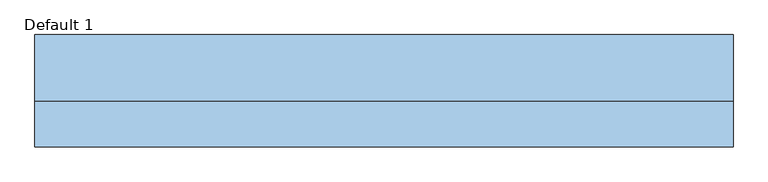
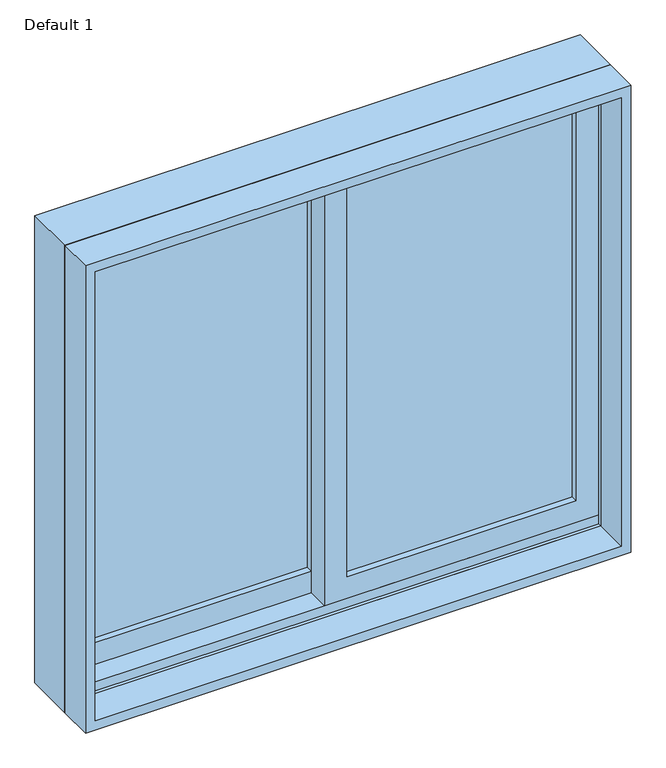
"""IFC4 building model written with IfcOpenShell, lengths in millimetres: window geometry, Planitar-Sliding-Double : Default 1."""

from ifc_helpers import new_model, si_unit, frame, origin, place, context, project, spatial, polyline, outline, extrude, faceted_brep, source, transform, mapped, element, save


def default_1_672f8768(model_context):
    return source(origin(), model_context, "Body", "SolidModel", [
        extrude(outline(polyline([(933.45, -514.35), (933.45, 22.225), (1860.55, 22.225), (1860.55, -514.35), (933.45, -514.35)]), holes=[polyline([(1816.1, -22.225), (996.95, -22.225), (996.95, -469.9), (1816.1, -469.9), (1816.1, -22.225)])]), frame((0.0, 40.64, 0.0), z_axis=(0.0, 1.0, 0.0), x_axis=(0.0, 0.0, 1.0)), (0.0, 0.0, 1.0), 44.45),
        extrude(outline(polyline([(952.5, 514.35), (1860.55, 514.35), (1860.55, -22.225), (952.5, -22.225), (952.5, 514.35)]), holes=[polyline([(996.95, 22.225), (1816.1, 22.225), (1816.1, 469.9), (996.95, 469.9), (996.95, 22.225)])]), frame((0.0, -3.81, 0.0), z_axis=(0.0, 1.0, 0.0), x_axis=(0.0, 0.0, 1.0)), (0.0, 0.0, 1.0), 44.45),
        faceted_brep([(-533.4, -10.16, 914.4), (-533.4, 91.44, 914.4), (533.4, 91.44, 914.4), (533.4, -10.16, 914.4), (-492.4778905, 91.44, 1838.6778905), (-492.4778905, 85.09, 1838.6778905), (-492.4778905, 85.09, 933.45), (-492.4778905, 91.44, 933.45), (492.4778905, 85.09, 1838.6778905), (492.4778905, 85.09, 933.45), (514.35, 85.09, 933.45), (514.35, 85.09, 1860.55), (-514.35, 85.09, 1860.55), (-514.35, 85.09, 933.45), (-514.35, -10.16, 1860.55), (-514.35, -10.16, 933.45), (-514.35, -3.81, 933.45), (-514.35, -3.81, 952.5), (-514.35, 40.64, 952.5), (-514.35, 40.64, 933.45), (533.4, -10.16, 1879.6), (-533.4, -10.16, 1879.6), (514.35, -10.16, 1860.55), (514.35, -10.16, 933.45), (-533.4, 91.44, 1879.6), (533.4, 91.44, 1879.6), (492.4778905, 91.44, 933.45), (492.4778905, 91.44, 1838.6778905), (514.35, 40.64, 933.45), (514.35, 40.64, 952.5), (514.35, -3.81, 952.5), (514.35, -3.81, 933.45)], [[[0, 1, 2, 3]], [[4, 5, 6, 7]], [[5, 8, 9, 10, 11, 12, 13, 6]], [[12, 14, 15, 16, 17, 18, 19, 13]], [[0, 3, 20, 21], [22, 23, 15, 14]], [[24, 1, 0, 21]], [[2, 1, 24, 25], [4, 7, 26, 27]], [[5, 4, 27, 8]], [[12, 11, 22, 14]], [[21, 20, 25, 24]], [[8, 27, 26, 9]], [[22, 11, 10, 28, 29, 30, 31, 23]], [[20, 3, 2, 25]], [[26, 7, 6, 13, 19, 28, 10, 9]], [[28, 19, 18, 29]], [[29, 18, 17, 30]], [[30, 17, 16, 31]], [[15, 23, 31, 16]]]),
        extrude(outline(polyline([(1879.6, -533.4), (914.4, -533.4), (914.4, 533.4), (1879.6, 533.4), (1879.6, -533.4)]), holes=[polyline([(1860.55, 514.35), (933.45, 514.35), (933.45, -514.35), (1860.55, -514.35), (1860.55, 514.35)])]), frame((0.0, -80.01, 0.0), z_axis=(0.0, 1.0, 0.0), x_axis=(0.0, 0.0, 1.0)), (0.0, 0.0, 1.0), 69.85),
        extrude(outline(polyline([(469.9, 27.94), (469.9, 21.59), (22.225, 21.59), (22.225, 27.94), (469.9, 27.94)])), frame((0.0, 0.0, 996.95), z_axis=(0.0, 0.0, 1.0), x_axis=(1.0, 0.0, 0.0)), (0.0, 0.0, 1.0), 819.15),
        extrude(outline(polyline([(469.9, 15.24), (469.9, 8.89), (22.225, 8.89), (22.225, 15.24), (469.9, 15.24)])), frame((0.0, 0.0, 996.95), z_axis=(0.0, 0.0, 1.0), x_axis=(1.0, 0.0, 0.0)), (0.0, 0.0, 1.0), 819.15),
        extrude(outline(polyline([(-22.225, 72.39), (-22.225, 66.04), (-469.9, 66.04), (-469.9, 72.39), (-22.225, 72.39)])), frame((0.0, 0.0, 996.95), z_axis=(0.0, 0.0, 1.0), x_axis=(1.0, 0.0, 0.0)), (0.0, 0.0, 1.0), 819.15),
        extrude(outline(polyline([(-22.225, 59.69), (-22.225, 53.34), (-469.9, 53.34), (-469.9, 59.69), (-22.225, 59.69)])), frame((0.0, 0.0, 996.95), z_axis=(0.0, 0.0, 1.0), x_axis=(1.0, 0.0, 0.0)), (0.0, 0.0, 1.0), 819.15),
    ])


if __name__ == "__main__":
    model = new_model("IFC4")
    model_context = context("Model", 3, world=origin())
    ifc_project = project(units=[si_unit("LENGTHUNIT", "METRE", prefix="MILLI")], contexts=[model_context])
    site = spatial("IfcSite", under=ifc_project)
    building = spatial("IfcBuilding", under=site)
    placement = place(None, origin())
    default_1_shape = default_1_672f8768(model_context)
    element("IfcWindow", 1, ObjectType="Planitar-Sliding-Double : Default 1", at=placement, inside=building, context=model_context, shape_type="MappedRepresentation", body=[
        mapped(default_1_shape, transform((0.0, 0.0, 0.0), x_axis=(1.0, 0.0, 0.0), y_axis=(0.0, 1.0, 0.0), z_axis=(0.0, 0.0, 1.0))),
    ])
    save(model, "model.ifc")
